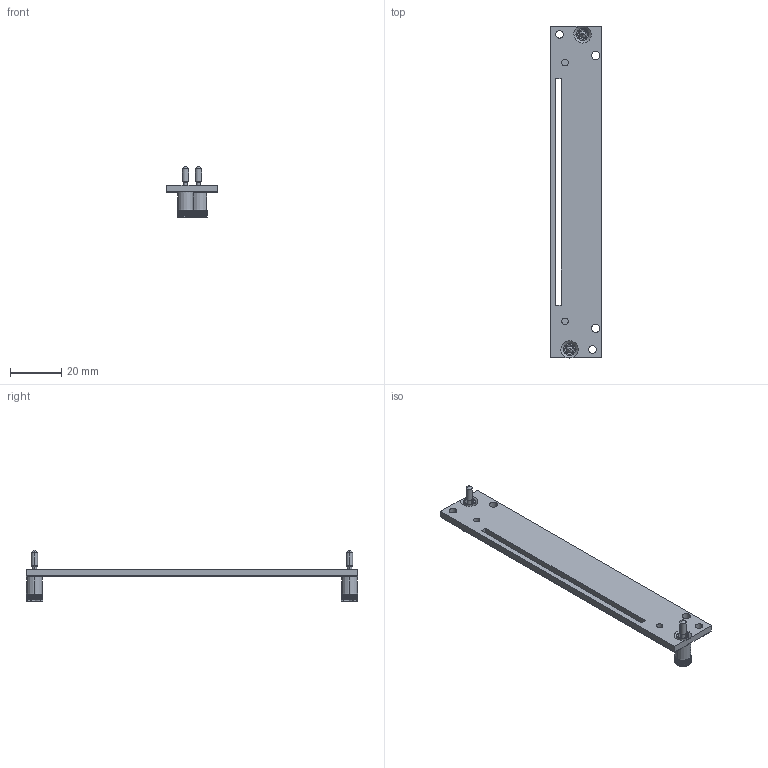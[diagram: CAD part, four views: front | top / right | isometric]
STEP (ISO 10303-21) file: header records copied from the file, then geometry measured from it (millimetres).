
FILE_DESCRIPTION((''),'2;1');
FILE_NAME('CU_PXI-795XR','2009-06-03T',('chrisj'),(''),'PRO/ENGINEER BY PARAMETRIC TECHNOLOGY CORPORATION, 2006300','PRO/ENGINEER BY PARAMETRIC TECHNOLOGY CORPORATION, 2006300','');
FILE_SCHEMA(('AUTOMOTIVE_DESIGN_CC2 { 1 2 10303 214 -1 1 5 2 }'));
Length unit declared in the file: inch
Products named in the file (1): CU_PXI-795XR
Bounding box: 20.02 x 129.02 x 20 mm (x, y, z)
Volume: 7520.9 mm3; surface area: 7377.1 mm2
Topology: 1 solids, 1 shells, 466 faces, 1224 edges, 772 vertices
Faces by surface type: plane 322, cylinder 68, bspline 36, extrusion 32, cone 4, torus 4
Entity records: 20651 total; most frequent: CARTESIAN_POINT 10410, ORIENTED_EDGE 2440, DIRECTION 1524, EDGE_CURVE 1220, VERTEX_POINT 772, B_SPLINE_CURVE_WITH_KNOTS 622, VECTOR 596, LINE 564
